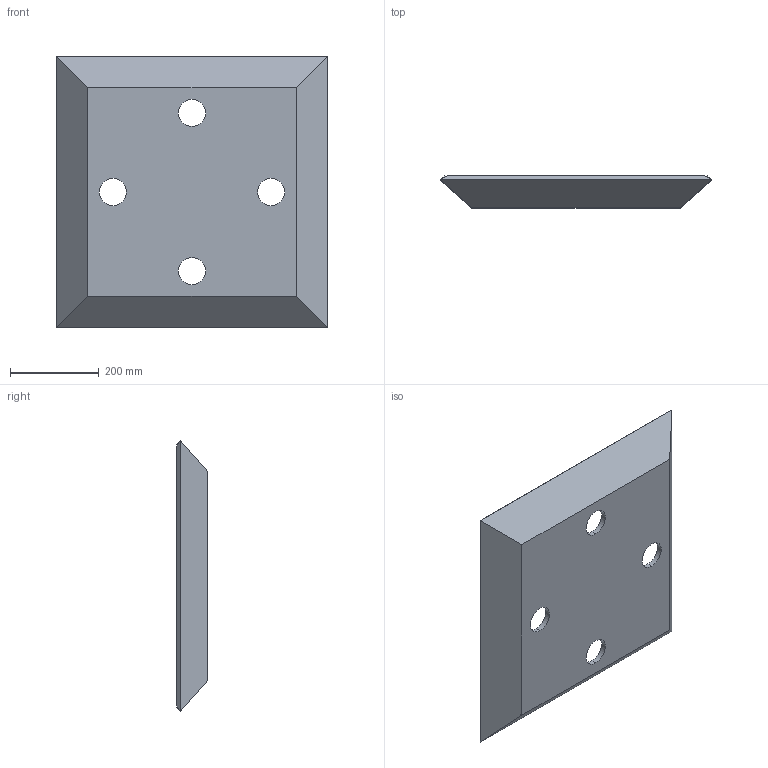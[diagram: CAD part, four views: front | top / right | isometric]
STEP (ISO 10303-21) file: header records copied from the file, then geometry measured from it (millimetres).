
FILE_DESCRIPTION (( 'STEP AP214' ), '1' );
FILE_NAME ('Spot Flood - Quad - 3 In Deep Assembly - V5.STEP', '2022-08-02T15:27:00', ( '' ), ( '' ), 'SwSTEP 2.0', 'SolidWorks 2020', '' );
FILE_SCHEMA (( 'AUTOMOTIVE_DESIGN' ));
Length unit declared in the file: inch
Products named in the file (3): 3 In Deep Extruded Tile Side - V5; Spot Flood - Quad - 3 In Deep Top - V5; Spot Flood - Quad - 3 In Deep Assembly - V5
Assembly tree (5 placements, depth 2):
  Spot Flood - Quad - 3 In Deep Assembly - V5
    Spot Flood - Quad - 3 In Deep Top - V5
    3 In Deep Extruded Tile Side - V5  x4
Bounding box: 609.6 x 71.4 x 609.6 mm (x, y, z)
Volume: 4627727.2 mm3; surface area: 883427.7 mm2
Topology: 5 solids, 5 shells, 38 faces, 84 edges, 56 vertices
Faces by surface type: plane 30, cylinder 8
Entity records: 752 total; most frequent: DIRECTION 120, CARTESIAN_POINT 108, ORIENTED_EDGE 96, EDGE_CURVE 48, AXIS2_PLACEMENT_3D 44, VECTOR 32, LINE 32, VERTEX_POINT 32
